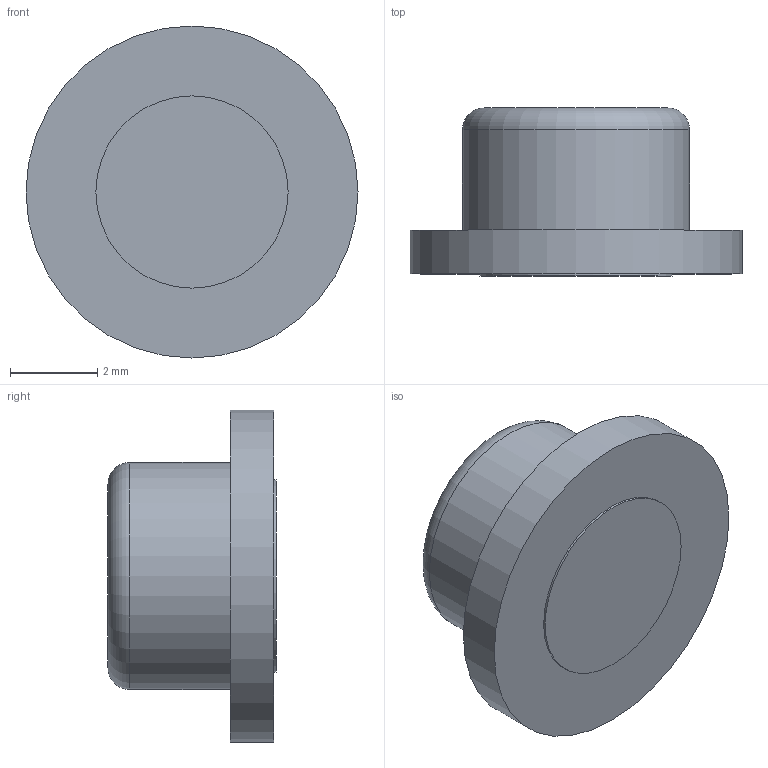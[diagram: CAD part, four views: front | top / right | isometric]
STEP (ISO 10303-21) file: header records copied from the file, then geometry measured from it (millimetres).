
FILE_DESCRIPTION(('Open CASCADE Model'),'2;1');
FILE_NAME('Open CASCADE Shape Model','2026-09-20T13:50:15',('Author'),( 'Open CASCADE'),'Open CASCADE STEP processor 7.7','Open CASCADE 7.7' ,'Unknown');
FILE_SCHEMA(('AUTOMOTIVE_DESIGN { 1 0 10303 214 1 1 1 1 }'));
Length unit declared in the file: millimetre
Products named in the file (1): Open CASCADE STEP translator 7.7 5
Bounding box: 7.6 x 3.85 x 7.6 mm (x, y, z)
Volume: 104.8 mm3; surface area: 157.4 mm2
Topology: 1 solids, 1 shells, 8 faces, 11 edges, 7 vertices
Faces by surface type: plane 4, cylinder 3, torus 1
Full cylindrical faces by diameter (mm): 4.4 x1, 5.2 x1, 7.6 x1
Entity records: 326 total; most frequent: DIRECTION 57, CARTESIAN_POINT 51, ORIENTED_EDGE 22, PCURVE 22, DEFINITIONAL_REPRESENTATION 22, AXIS2_PLACEMENT_3D 17, LINE 17, VECTOR 17
